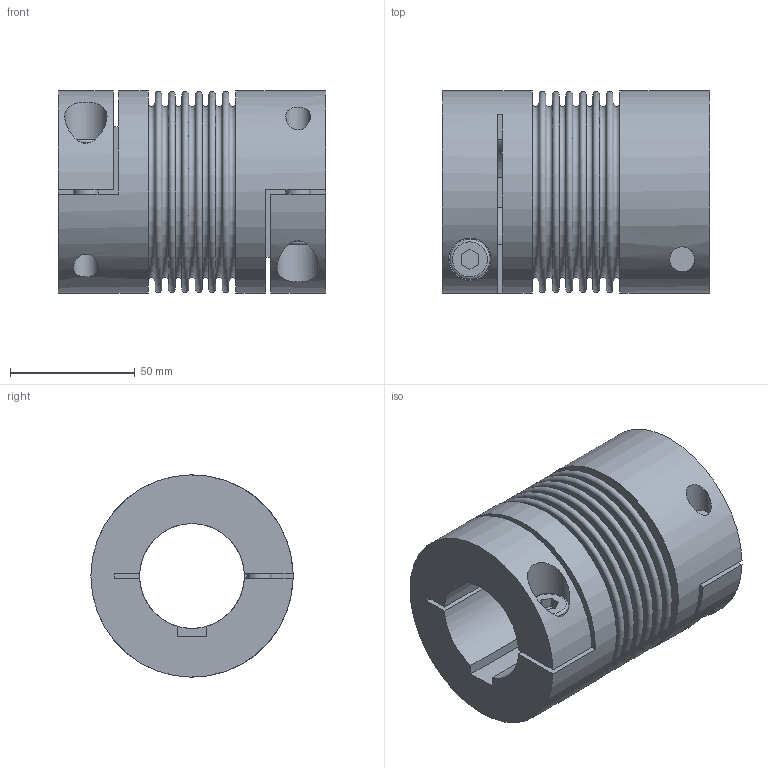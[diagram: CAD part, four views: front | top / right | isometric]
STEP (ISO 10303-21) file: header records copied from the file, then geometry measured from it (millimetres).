
FILE_DESCRIPTION(/* description */ ('STEP AP203'),/* implementation_level */ '2;1');
FILE_NAME(/* name */ 'C:\Diequa Files\DieQua Coupling\Website Step Files\BC.150.107.#.#.stp',/* time_stamp */ '2020-02-17T09:46:16-06:00',/* author */ ('DiequaCAD'),/* organization */ (''),/* preprocessor_version */ 'ST-DEVELOPER v18',/* originating_system */ 'Autodesk Inventor 2020',/* authorisation */ ' ');
FILE_SCHEMA (('AUTOMOTIVE_DESIGN { 1 0 10303 214 3 1 1 }'));
Length unit declared in the file: millimetre
Products named in the file (1): BC.150.107.#.#
Bounding box: 107 x 81 x 81 mm (x, y, z)
Volume: 283998.5 mm3; surface area: 83921.9 mm2
Topology: 1 solids, 1 shells, 88 faces, 219 edges, 155 vertices
Faces by surface type: plane 58, torus 15, cylinder 15
Full cylindrical faces by diameter (mm): 10 x4, 16 x2, 17 x2, 66 x1, 81 x2
Entity records: 2894 total; most frequent: CARTESIAN_POINT 614, DIRECTION 495, ORIENTED_EDGE 438, EDGE_CURVE 219, AXIS2_PLACEMENT_3D 194, VERTEX_POINT 155, EDGE_LOOP 116, LINE 107
